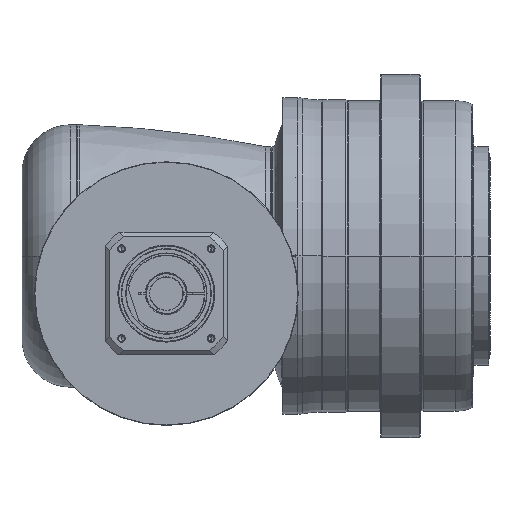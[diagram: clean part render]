
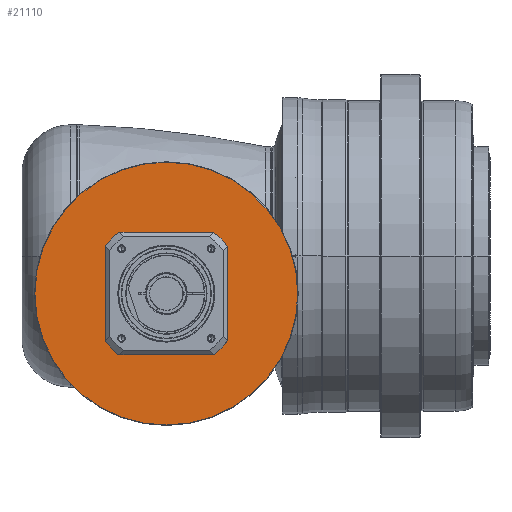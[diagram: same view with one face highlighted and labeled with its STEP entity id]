
A CAD part, front view. The second image highlights one B-rep face of the part: STEP entity #21110.
In plain terms, the highlighted planar face has unit normal (0, -1, 0) as drawn and (1, 0, 0) by its records, which use the part's own axes.
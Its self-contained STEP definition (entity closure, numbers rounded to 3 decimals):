
#20141=CARTESIAN_POINT('',(-4.,0.,0.));
#20142=DIRECTION('',(-1.,0.,0.));
#20143=DIRECTION('',(0.,-1.,0.));
#20144=AXIS2_PLACEMENT_3D('',#20141,#20142,#20143);
#20146=CARTESIAN_POINT('',(-4.,0.,0.));
#20147=DIRECTION('',(-1.,0.,0.));
#20148=DIRECTION('',(0.,1.,0.));
#20149=AXIS2_PLACEMENT_3D('',#20146,#20147,#20148);
#20151=CARTESIAN_POINT('',(-4.,0.,0.));
#20152=DIRECTION('',(-1.,0.,0.));
#20153=DIRECTION('',(0.,-1.,0.));
#20154=AXIS2_PLACEMENT_3D('',#20151,#20152,#20153);
#20156=CARTESIAN_POINT('',(-4.,0.,0.));
#20157=DIRECTION('',(-1.,0.,0.));
#20158=DIRECTION('',(0.,1.,0.));
#20159=AXIS2_PLACEMENT_3D('',#20156,#20157,#20158);
#20389=CARTESIAN_POINT('',(-4.,-150.25,0.));
#20390=CARTESIAN_POINT('',(-4.,150.25,0.));
#20391=VERTEX_POINT('',#20389);
#20392=VERTEX_POINT('',#20390);
#20405=CARTESIAN_POINT('',(-4.,-70.,0.));
#20406=CARTESIAN_POINT('',(-4.,70.,0.));
#20407=VERTEX_POINT('',#20405);
#20408=VERTEX_POINT('',#20406);
#21095=CARTESIAN_POINT('',(-4.,0.,0.));
#21096=DIRECTION('',(1.,0.,0.));
#21097=DIRECTION('',(0.,-1.,0.));
#21098=AXIS2_PLACEMENT_3D('',#21095,#21096,#21097);
#21099=PLANE('',#21098);
#21100=ORIENTED_EDGE('',*,*,#21051,.T.);
#21101=ORIENTED_EDGE('',*,*,#21036,.T.);
#21102=EDGE_LOOP('',(#21100,#21101));
#21103=FACE_OUTER_BOUND('',#21102,.F.);
#21105=ORIENTED_EDGE('',*,*,#21104,.F.);
#21107=ORIENTED_EDGE('',*,*,#21106,.F.);
#21108=EDGE_LOOP('',(#21105,#21107));
#21109=FACE_BOUND('',#21108,.F.);
#21110=ADVANCED_FACE('',(#21103,#21109),#21099,.T.);
#20145=CIRCLE('',#20144,70.);
#20150=CIRCLE('',#20149,70.);
#20155=CIRCLE('',#20154,150.25);
#20160=CIRCLE('',#20159,150.25);
#21036=EDGE_CURVE('',#20392,#20391,#20160,.T.);
#21051=EDGE_CURVE('',#20391,#20392,#20155,.T.);
#21104=EDGE_CURVE('',#20407,#20408,#20145,.T.);
#21106=EDGE_CURVE('',#20408,#20407,#20150,.T.);
